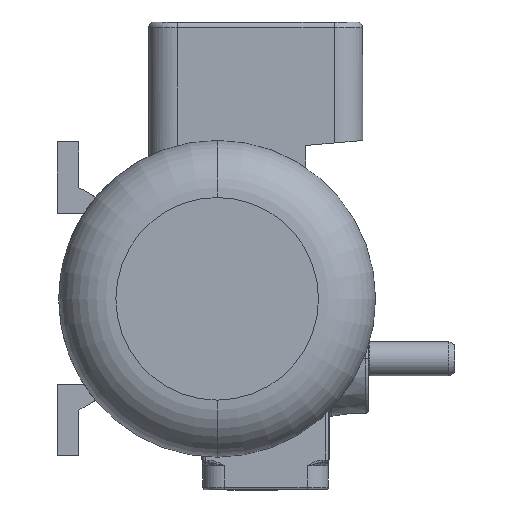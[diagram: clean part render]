
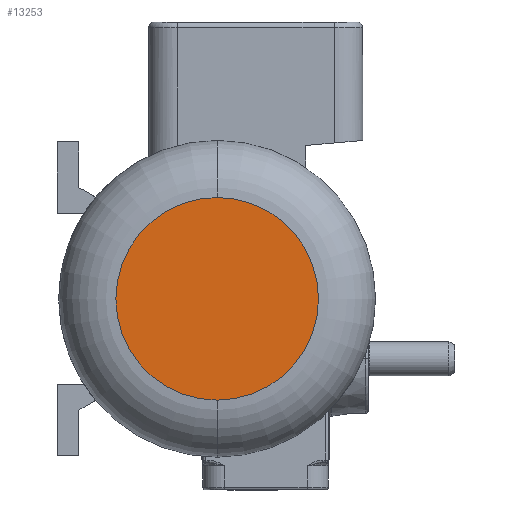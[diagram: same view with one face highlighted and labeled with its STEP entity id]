
A CAD part, left-side view. The second image highlights one B-rep face of the part: STEP entity #13253.
In plain terms, the highlighted planar face has unit normal (-1, 0, 0).
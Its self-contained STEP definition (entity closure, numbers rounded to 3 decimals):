
#100 = CIRCLE ( 'NONE', #13875, 35.5 ) ;
#1022 = DIRECTION ( 'NONE',  ( 0., 0., -1. ) ) ;
#1835 = EDGE_CURVE ( 'NONE', #6552, #13675, #100, .T. ) ;
#3153 = DIRECTION ( 'NONE',  ( 0., 0., -1. ) ) ;
#3584 = CARTESIAN_POINT ( 'NONE',  ( 0., 0., 0. ) ) ;
#3856 = AXIS2_PLACEMENT_3D ( 'NONE', #4803, #9803, #12363 ) ;
#4540 = ORIENTED_EDGE ( 'NONE', *, *, #1835, .T. ) ;
#4656 = CARTESIAN_POINT ( 'NONE',  ( 0., 0., 0. ) ) ;
#4803 = CARTESIAN_POINT ( 'NONE',  ( 0., 0., 0. ) ) ;
#5358 = AXIS2_PLACEMENT_3D ( 'NONE', #4656, #14768, #3153 ) ;
#5866 = CARTESIAN_POINT ( 'NONE',  ( 0., 0., 35.5 ) ) ;
#6552 = VERTEX_POINT ( 'NONE', #11530 ) ;
#8012 = CIRCLE ( 'NONE', #5358, 35.5 ) ;
#8841 = EDGE_LOOP ( 'NONE', ( #4540, #15050 ) ) ;
#9724 = PLANE ( 'NONE',  #3856 ) ;
#9803 = DIRECTION ( 'NONE',  ( 1., 0., 0. ) ) ;
#11293 = FACE_OUTER_BOUND ( 'NONE', #8841, .T. ) ;
#11530 = CARTESIAN_POINT ( 'NONE',  ( 0., 0., -35.5 ) ) ;
#12363 = DIRECTION ( 'NONE',  ( 0., 0., -1. ) ) ;
#12394 = DIRECTION ( 'NONE',  ( -1., 0., 0. ) ) ;
#13253 = ADVANCED_FACE ( 'NONE', ( #11293 ), #9724, .F. ) ;
#13675 = VERTEX_POINT ( 'NONE', #5866 ) ;
#13875 = AXIS2_PLACEMENT_3D ( 'NONE', #3584, #12394, #1022 ) ;
#14768 = DIRECTION ( 'NONE',  ( -1., 0., 0. ) ) ;
#15050 = ORIENTED_EDGE ( 'NONE', *, *, #15539, .T. ) ;
#15539 = EDGE_CURVE ( 'NONE', #13675, #6552, #8012, .T. ) ;
